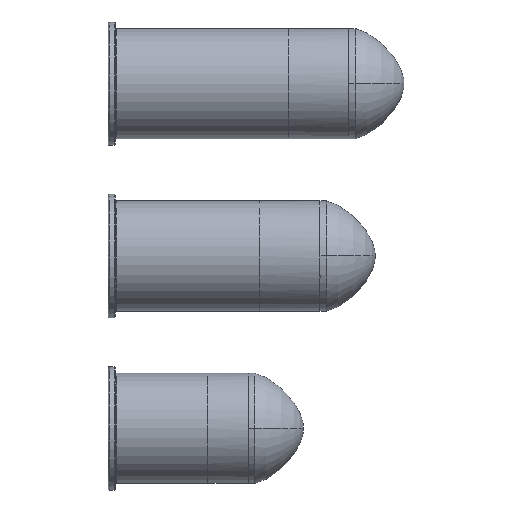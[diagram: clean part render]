
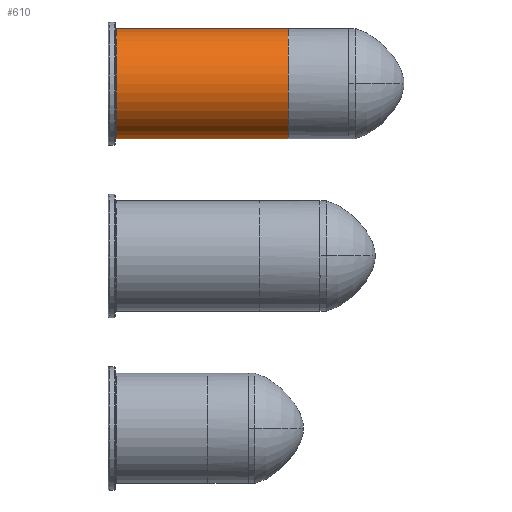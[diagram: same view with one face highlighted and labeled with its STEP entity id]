
A CAD part, top view. The second image highlights one B-rep face of the part: STEP entity #610.
In plain terms, the highlighted cylindrical face has radius 19.175 mm (diameter 38.35 mm), a partial arc.
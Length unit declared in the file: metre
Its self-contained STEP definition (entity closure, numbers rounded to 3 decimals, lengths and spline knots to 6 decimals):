
#610=ADVANCED_FACE('0:792',(#1040),#1041,.T.);
#1040=FACE_OUTER_BOUND('',#4847,.T.);
#1041=CYLINDRICAL_SURFACE('',#4848,0.019175);
#4847=EDGE_LOOP('',(#7330,#7331,#7332,#7333,#7334));
#4848=AXIS2_PLACEMENT_3D('',#7335,#7336,#7337);
#7330=ORIENTED_EDGE('',*,*,#8666,.T.);
#7331=ORIENTED_EDGE('',*,*,#8688,.F.);
#7332=ORIENTED_EDGE('',*,*,#8669,.T.);
#7333=ORIENTED_EDGE('',*,*,#8746,.F.);
#7334=ORIENTED_EDGE('',*,*,#8717,.F.);
#7335=CARTESIAN_POINT('',(-0.18,0.0,0.0));
#7336=DIRECTION('',(-1.0,-0.0,0.0));
#7337=DIRECTION('',(0.0,-1.0,0.0));
#8666=EDGE_CURVE('',#9378,#9379,#9380,.T.);
#8669=EDGE_CURVE('',#9385,#9383,#9386,.T.);
#8688=EDGE_CURVE('0:836',#9385,#9379,#9421,.F.);
#8717=EDGE_CURVE('0:1052',#9378,#9474,#9475,.T.);
#8746=EDGE_CURVE('0:1052',#9474,#9383,#9520,.T.);
#9378=VERTEX_POINT('',#11571);
#9379=VERTEX_POINT('',#11572);
#9380=LINE('',#11573,#11574);
#9383=VERTEX_POINT('',#11577);
#9385=VERTEX_POINT('',#11579);
#9386=LINE('',#11580,#11581);
#9421=CIRCLE('',#11777,0.019175);
#9474=VERTEX_POINT('',#11905);
#9475=CIRCLE('',#11906,0.019175);
#9520=CIRCLE('',#12135,0.019175);
#11571=CARTESIAN_POINT('',(-0.18013,-0.019175,0.));
#11572=CARTESIAN_POINT('',(-0.120225,-0.019175,0.));
#11573=CARTESIAN_POINT('',(-0.18,-0.019175,0.));
#11574=VECTOR('',#15220,1.0);
#11577=CARTESIAN_POINT('',(-0.18013,0.019175,0.));
#11579=CARTESIAN_POINT('',(-0.120225,0.019175,0.));
#11580=CARTESIAN_POINT('',(-0.18,0.019175,0.));
#11581=VECTOR('',#15227,1.0);
#11777=AXIS2_PLACEMENT_3D('',#15251,#15252,#15253);
#11905=CARTESIAN_POINT('',(-0.18013,0.,0.019175));
#11906=AXIS2_PLACEMENT_3D('',#15305,#15306,#15307);
#12135=AXIS2_PLACEMENT_3D('',#15355,#15356,#15357);
#15220=DIRECTION('',(1.0,-0.0,-0.0));
#15227=DIRECTION('',(-1.0,-0.0,-0.0));
#15251=CARTESIAN_POINT('',(-0.120225,0.0,0.0));
#15252=DIRECTION('',(-1.0,-0.0,0.0));
#15253=DIRECTION('',(0.0,-1.0,0.0));
#15305=CARTESIAN_POINT('',(-0.18013,0.0,0.0));
#15306=DIRECTION('',(-1.0,0.0,0.0));
#15307=DIRECTION('',(0.0,-1.0,0.0));
#15355=CARTESIAN_POINT('',(-0.18013,0.0,0.0));
#15356=DIRECTION('',(-1.0,0.0,0.0));
#15357=DIRECTION('',(0.0,-1.0,0.0));
